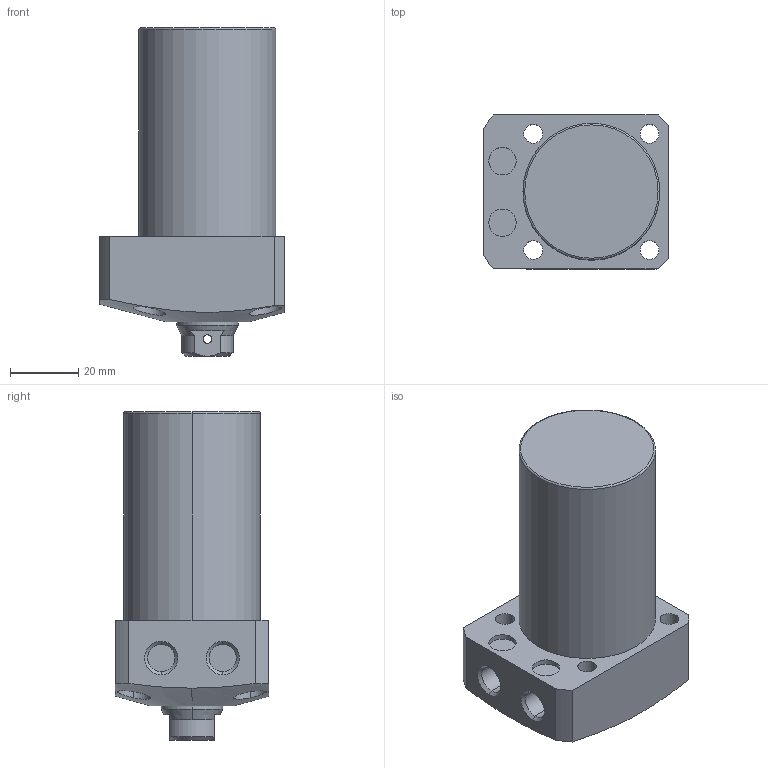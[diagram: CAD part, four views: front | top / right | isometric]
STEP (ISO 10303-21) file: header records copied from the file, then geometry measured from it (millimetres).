
FILE_DESCRIPTION (( 'STEP AP203' ), '1' );
FILE_NAME ('CLL-0400-CB-50.STEP', '2017-05-09T05:51:11', ( '' ), ( '' ), 'SwSTEP 2.0', 'SolidWorks 2015', '' );
FILE_SCHEMA (( 'CONFIG_CONTROL_DESIGN' ));
Length unit declared in the file: millimetre
Products named in the file (1): CLL-0400-CB-50
Bounding box: 54 x 45 x 96 mm (x, y, z)
Volume: 128070.9 mm3; surface area: 19593.9 mm2
Topology: 1 solids, 1 shells, 78 faces, 182 edges, 115 vertices
Faces by surface type: cylinder 39, plane 22, cone 15, torus 2
Entity records: 2728 total; most frequent: CARTESIAN_POINT 829, DIRECTION 394, ORIENTED_EDGE 360, EDGE_CURVE 180, AXIS2_PLACEMENT_3D 163, VERTEX_POINT 115, EDGE_LOOP 101, CIRCLE 84
